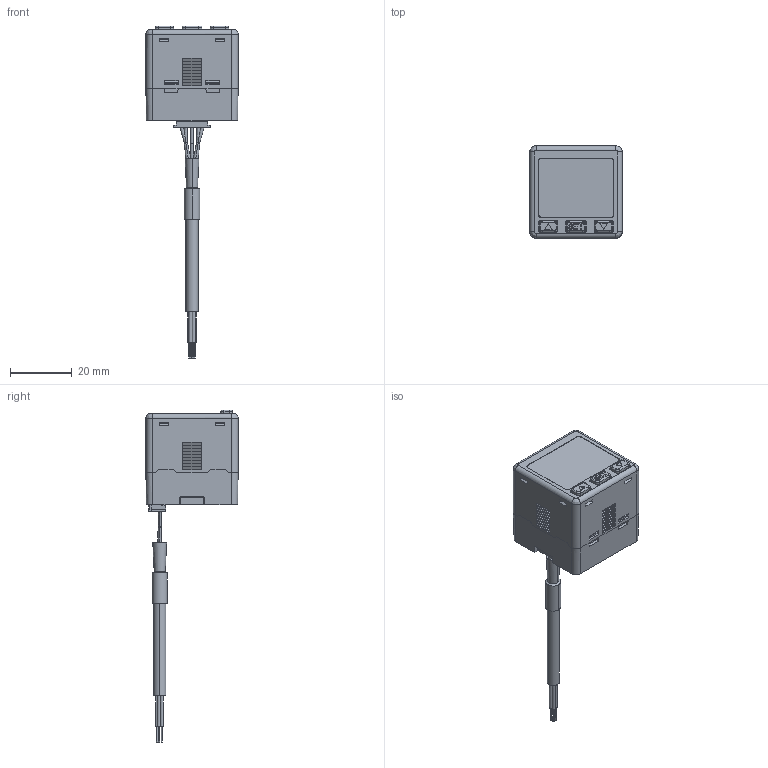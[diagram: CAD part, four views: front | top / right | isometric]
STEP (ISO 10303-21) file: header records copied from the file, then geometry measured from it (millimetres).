
FILE_DESCRIPTION(('STEP AP214'),'1');
FILE_NAME('.stp','2026-02-05T05:42:58',(' '),(' '),'Spatial InterOp 3D',' ',' ');
FILE_SCHEMA(('AUTOMOTIVE_DESIGN { 1 0 10303 214 1 1 1 1 }'));
Length unit declared in the file: millimetre
Products named in the file (2): MPS-※42M5-※C※; NULL
Assembly tree (1 placements, depth 2):
  MPS-※42M5-※C※
    NULL
Bounding box: 30.03 x 30 x 107.95 mm (x, y, z)
Surface area: 8103 mm2 (no closed solid volume)
Topology: 0 solids, 1 shells, 965 faces, 2491 edges, 1573 vertices
Faces by surface type: plane 778, bspline 172, torus 15
Entity records: 42192 total; most frequent: CARTESIAN_POINT 12213, ORIENTED_EDGE 4974, DIRECTION 3740, EDGE_CURVE 2491, LINE 2098, VECTOR 2098, VERTEX_POINT 1573, FACE_BOUND 1050
